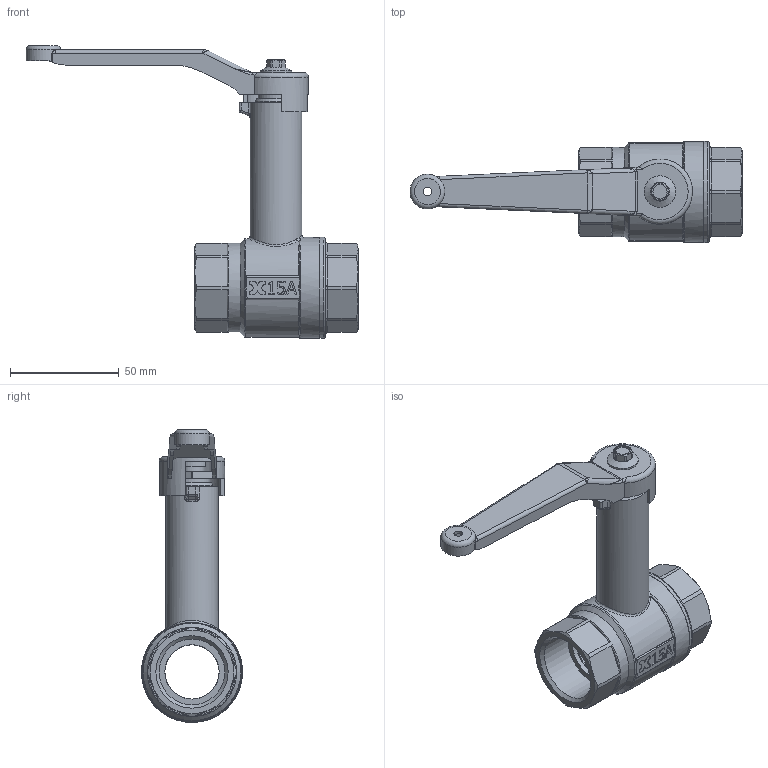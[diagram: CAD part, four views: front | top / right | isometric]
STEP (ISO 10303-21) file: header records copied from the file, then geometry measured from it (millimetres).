
FILE_DESCRIPTION(/* description */ ('Sfera DN 1"'),/* implementation_level */ '2;1');
FILE_NAME(/* name */ '\\dcidrosfer01\user$\ut4\Desktop\Traber Ticom 13-03-15\Valvola a sfera 001 art.109.stp',/* time_stamp */ '2015-03-13T13:52:09+01:00',/* author */ ('ut4'),/* organization */ (''),/* preprocessor_version */ 'ST-DEVELOPER v15.6',/* originating_system */ 'Autodesk Inventor 2015',/* authorisation */ '');
FILE_SCHEMA (('AUTOMOTIVE_DESIGN { 1 0 10303 214 3 1 1 }'));
Length unit declared in the file: millimetre
Products named in the file (13): Sfera 001; Sede 001; Anello teflon 001; O-Ring 001; Vite rond. inc. 5x14 DACRO; Manicotto femmina 001; Leva 3; Perno prolunga Ø14; Premistoppa prolunga es.19; Rondella ottone prolunga Ø17; Tubetto prolunga Ø16; Corpo prolunga femmina 001; Valvola a sfera 001 art.109
Assembly tree (14 placements, depth 2):
  Valvola a sfera 001 art.109
    Sfera 001
    Sede 001  x2
    Anello teflon 001
    O-Ring 001
    Vite rond. inc. 5x14 DACRO
    Manicotto femmina 001
    Leva 3
    Perno prolunga Ø14
    Premistoppa prolunga es.19
    Rondella ottone prolunga Ø17  x2
    Tubetto prolunga Ø16
    Corpo prolunga femmina 001
Bounding box: 152.79 x 46.5 x 134.8 mm (x, y, z)
Volume: 95529.7 mm3; surface area: 64122.3 mm2
Topology: 14 solids, 14 shells, 522 faces, 1270 edges, 799 vertices
Faces by surface type: plane 245, cylinder 128, bspline 60, cone 54, torus 32, sphere 3
Full cylindrical faces by diameter (mm): 3.6 x1, 4 x1, 4.134 x1, 5 x1, 6.5 x1, 9.5 x1, 9.7 x1, 10 x1, 11.7 x1, 12 x3, 12.5 x2, 13 x2, 14 x3, 14.2 x1, 14.5 x1, 14.9 x1, 16 x1, 16.5 x1, 17 x2, 17.1 x1, 17.2 x1, 17.7 x1, 19 x1, 24 x1, 25 x5, 30.29 x1, 30.295 x1, 35 x4, 40.5 x1, 41 x1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
Entity records: 16431 total; most frequent: CARTESIAN_POINT 4754, ORIENTED_EDGE 2280, DIRECTION 2206, EDGE_CURVE 1140, AXIS2_PLACEMENT_3D 826, VERTEX_POINT 768, EDGE_LOOP 644, LINE 554
